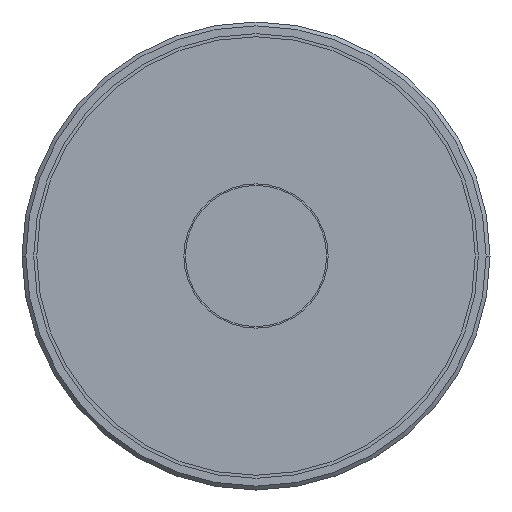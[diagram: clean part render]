
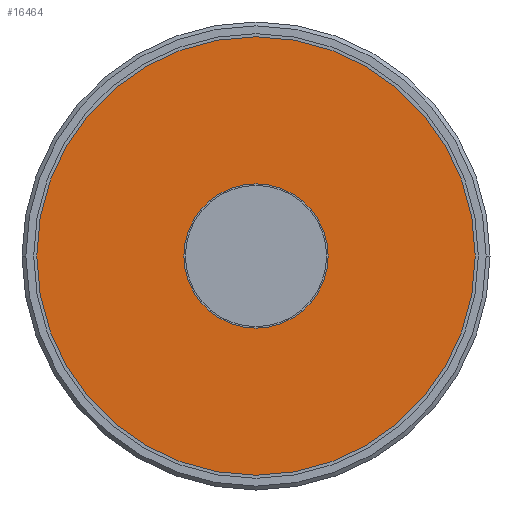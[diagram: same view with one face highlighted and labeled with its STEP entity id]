
A CAD part, left-side view. The second image highlights one B-rep face of the part: STEP entity #16464.
In plain terms, the highlighted planar face has unit normal (-1, 0, 0).
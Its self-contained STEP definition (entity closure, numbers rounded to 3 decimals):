
#49=CARTESIAN_POINT('',(0.,0.,0.));
#50=DIRECTION('',(-1.,0.,0.));
#51=DIRECTION('',(0.,1.,0.));
#52=AXIS2_PLACEMENT_3D('',#49,#50,#51);
#57=CARTESIAN_POINT('',(0.,0.,0.));
#58=DIRECTION('',(-1.,0.,0.));
#59=DIRECTION('',(0.,-1.,0.));
#60=AXIS2_PLACEMENT_3D('',#57,#58,#59);
#81=CARTESIAN_POINT('',(0.,0.,0.));
#82=DIRECTION('',(-1.,0.,0.));
#83=DIRECTION('',(0.,-1.,0.));
#84=AXIS2_PLACEMENT_3D('',#81,#82,#83);
#89=CARTESIAN_POINT('',(0.,0.,0.));
#90=DIRECTION('',(-1.,0.,0.));
#91=DIRECTION('',(0.,1.,0.));
#92=AXIS2_PLACEMENT_3D('',#89,#90,#91);
#14753=CARTESIAN_POINT('',(0.,9.25,0.));
#14754=CARTESIAN_POINT('',(0.,-9.25,0.));
#14755=VERTEX_POINT('',#14753);
#14756=VERTEX_POINT('',#14754);
#14761=CARTESIAN_POINT('',(0.,-28.1,0.));
#14762=CARTESIAN_POINT('',(0.,28.1,0.));
#14763=VERTEX_POINT('',#14761);
#14764=VERTEX_POINT('',#14762);
#16447=CARTESIAN_POINT('',(0.,0.,0.));
#16448=DIRECTION('',(1.,0.,0.));
#16449=DIRECTION('',(0.,-1.,0.));
#16450=AXIS2_PLACEMENT_3D('',#16447,#16448,#16449);
#16451=PLANE('',#16450);
#16453=ORIENTED_EDGE('',*,*,#16452,.F.);
#16455=ORIENTED_EDGE('',*,*,#16454,.F.);
#16456=EDGE_LOOP('',(#16453,#16455));
#16457=FACE_OUTER_BOUND('',#16456,.F.);
#16459=ORIENTED_EDGE('',*,*,#16458,.T.);
#16461=ORIENTED_EDGE('',*,*,#16460,.T.);
#16462=EDGE_LOOP('',(#16459,#16461));
#16463=FACE_BOUND('',#16462,.F.);
#16464=ADVANCED_FACE('',(#16457,#16463),#16451,.F.);
#53=CIRCLE('',#52,9.25);
#61=CIRCLE('',#60,9.25);
#85=CIRCLE('',#84,28.1);
#93=CIRCLE('',#92,28.1);
#16452=EDGE_CURVE('',#14763,#14764,#85,.T.);
#16454=EDGE_CURVE('',#14764,#14763,#93,.T.);
#16458=EDGE_CURVE('',#14755,#14756,#53,.T.);
#16460=EDGE_CURVE('',#14756,#14755,#61,.T.);
